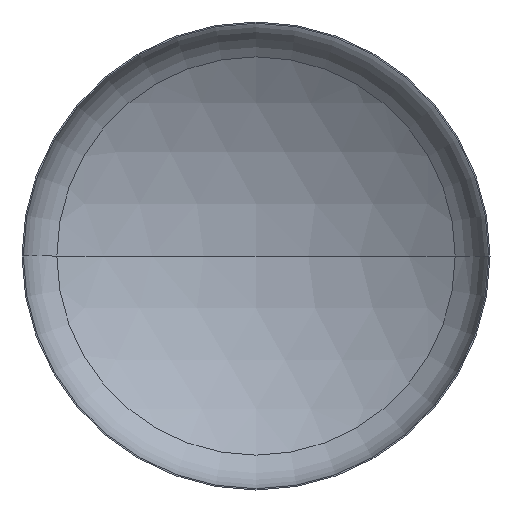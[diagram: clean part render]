
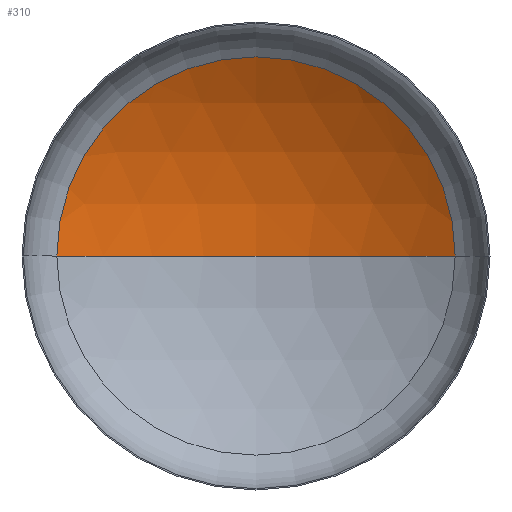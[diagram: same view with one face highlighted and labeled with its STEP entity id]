
A CAD part, front view. The second image highlights one B-rep face of the part: STEP entity #310.
In plain terms, the highlighted spherical face has radius 2400 mm.
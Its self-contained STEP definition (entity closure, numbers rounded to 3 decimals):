
#9 = AXIS2_PLACEMENT_3D ( 'NONE', #204, #207, #383 ) ;
#20 = ORIENTED_EDGE ( 'NONE', *, *, #116, .F. ) ;
#23 = AXIS2_PLACEMENT_3D ( 'NONE', #82, #347, #371 ) ;
#25 = AXIS2_PLACEMENT_3D ( 'NONE', #58, #121, #320 ) ;
#26 = AXIS2_PLACEMENT_3D ( 'NONE', #266, #89, #290 ) ;
#47 = CIRCLE ( 'NONE', #23, 2400. ) ;
#58 = CARTESIAN_POINT ( 'NONE',  ( 0., -1617.734, 0. ) ) ;
#60 = CIRCLE ( 'NONE', #26, 1276.701 ) ;
#72 = CARTESIAN_POINT ( 'NONE',  ( 0., 782.266, 0. ) ) ;
#82 = CARTESIAN_POINT ( 'NONE',  ( 0., -1617.734, 0. ) ) ;
#89 = DIRECTION ( 'NONE',  ( 0., -1., 0. ) ) ;
#96 = EDGE_CURVE ( 'NONE', #247, #288, #60, .T. ) ;
#102 = EDGE_CURVE ( 'NONE', #206, #247, #362, .T. ) ;
#104 = EDGE_LOOP ( 'NONE', ( #20, #258, #365 ) ) ;
#116 = EDGE_CURVE ( 'NONE', #206, #288, #47, .T. ) ;
#121 = DIRECTION ( 'NONE',  ( 0., 0., -1. ) ) ;
#157 = CARTESIAN_POINT ( 'NONE',  ( -1276.701, 414.514, 0. ) ) ;
#204 = CARTESIAN_POINT ( 'NONE',  ( 0., -1617.734, 0. ) ) ;
#206 = VERTEX_POINT ( 'NONE', #72 ) ;
#207 = DIRECTION ( 'NONE',  ( 0., 0., -1. ) ) ;
#247 = VERTEX_POINT ( 'NONE', #261 ) ;
#258 = ORIENTED_EDGE ( 'NONE', *, *, #102, .T. ) ;
#261 = CARTESIAN_POINT ( 'NONE',  ( 1276.701, 414.514, 0. ) ) ;
#266 = CARTESIAN_POINT ( 'NONE',  ( 0., 414.514, 0. ) ) ;
#288 = VERTEX_POINT ( 'NONE', #157 ) ;
#290 = DIRECTION ( 'NONE',  ( 1., 0., 0. ) ) ;
#310 = ADVANCED_FACE ( 'NONE', ( #324 ), #401, .F. ) ;
#320 = DIRECTION ( 'NONE',  ( -1., 0., 0. ) ) ;
#324 = FACE_OUTER_BOUND ( 'NONE', #104, .T. ) ;
#347 = DIRECTION ( 'NONE',  ( 0., 0., 1. ) ) ;
#362 = CIRCLE ( 'NONE', #25, 2400. ) ;
#365 = ORIENTED_EDGE ( 'NONE', *, *, #96, .T. ) ;
#371 = DIRECTION ( 'NONE',  ( 1., 0., 0. ) ) ;
#383 = DIRECTION ( 'NONE',  ( -1., 0., 0. ) ) ;
#401 = SPHERICAL_SURFACE ( 'NONE', #9, 2400. ) ;
